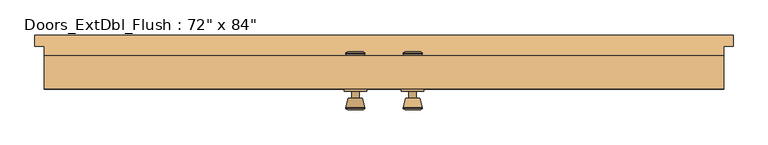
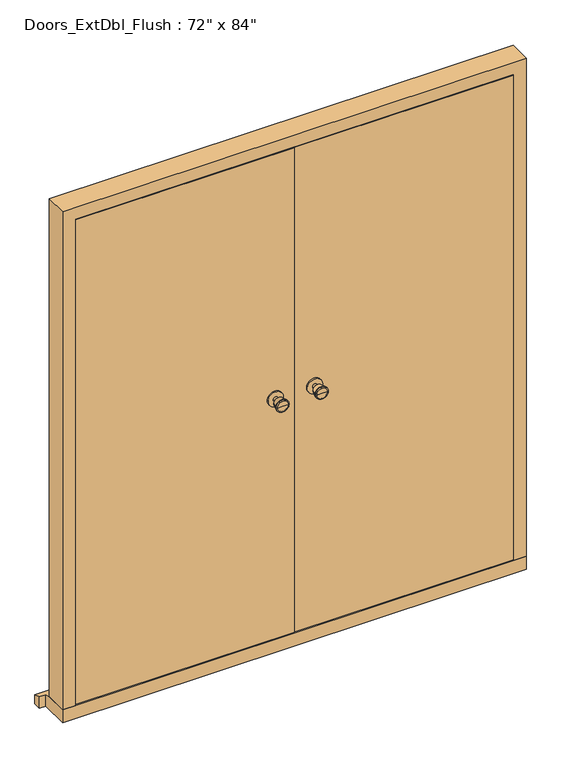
"""IFC4 building model written with IfcOpenShell, lengths in millimetres: door geometry."""

from ifc_helpers import new_model, si_unit, point, frame, frame_2d, origin, place, context, project, spatial, polyline, circle_curve, trimmed, segment, composite_curve, outline, extrude, faceted_brep, source, transform, mapped, element, save
from ifc_brep_helpers import plane_surface, cylinder_surface, revolved_surface, advanced_brep


def door_25965b09(model_context):
    return source(origin(), model_context, "Body", "SolidModel", [
        advanced_brep(
        [(-76.5, 36.5, 1050.0), (-66.5, 36.5, 1050.0), (-86.5, 36.5, 1050.0), (-96.9758676, -12.5, 1050.0), (-56.0241324, -12.5, 1050.0), (-76.5, -12.5, 1050.0), (-101.5, -10.6721319, 1050.0), (-51.5, -10.6721319, 1050.0), (-101.5, -7.2084537, 1050.0), (-51.5, -7.2084537, 1050.0), (-95.136236, 17.5, 1050.0), (-57.863764, 17.5, 1050.0), (-86.5, 17.5, 1050.0), (-66.5, 17.5, 1050.0)],
        [
            (0, 1),
            (1, 2, circle_curve(frame((-76.5, 36.5, 1050.0), z_axis=(0.0, 1.0, 0.0), x_axis=(1.0, 0.0, 0.0)), 10.0)),
            (2, 0),
            (2, 1, circle_curve(frame((-76.5, 36.5, 1050.0), z_axis=(0.0, 1.0, 0.0), x_axis=(1.0, 0.0, 0.0)), 10.0)),
            (3, 4, circle_curve(frame((-76.5, -12.5, 1050.0), z_axis=(0.0, -1.0, 0.0), x_axis=(1.0, 0.0, 0.0)), 20.4758676)),
            (4, 5),
            (5, 3),
            (4, 3, circle_curve(frame((-76.5, -12.5, 1050.0), z_axis=(0.0, -1.0, 0.0), x_axis=(1.0, 0.0, 0.0)), 20.4758676)),
            (6, 7, circle_curve(frame((-76.5, -10.6721319, 1050.0), z_axis=(0.0, -1.0, 0.0), x_axis=(1.0, 0.0, 0.0)), 25.0)),
            (7, 4),
            (3, 6),
            (7, 6, circle_curve(frame((-76.5, -10.6721319, 1050.0), z_axis=(0.0, -1.0, 0.0), x_axis=(1.0, 0.0, 0.0)), 25.0)),
            (8, 9, circle_curve(frame((-76.5, -7.2084537, 1050.0), z_axis=(0.0, -1.0, 0.0), x_axis=(1.0, 0.0, 0.0)), 25.0)),
            (9, 7),
            (6, 8),
            (9, 8, circle_curve(frame((-76.5, -7.2084537, 1050.0), z_axis=(0.0, -1.0, 0.0), x_axis=(1.0, 0.0, 0.0)), 25.0)),
            (10, 11, circle_curve(frame((-76.5, 17.5, 1050.0), z_axis=(0.0, -1.0, 0.0), x_axis=(1.0, 0.0, 0.0)), 18.636236)),
            (11, 9),
            (8, 10),
            (11, 10, circle_curve(frame((-76.5, 17.5, 1050.0), z_axis=(0.0, -1.0, 0.0), x_axis=(1.0, 0.0, 0.0)), 18.636236)),
            (12, 13, circle_curve(frame((-76.5, 17.5, 1050.0), z_axis=(0.0, -1.0, 0.0), x_axis=(1.0, 0.0, 0.0)), 10.0)),
            (13, 11),
            (10, 12),
            (13, 12, circle_curve(frame((-76.5, 17.5, 1050.0), z_axis=(0.0, -1.0, 0.0), x_axis=(1.0, 0.0, 0.0)), 10.0)),
            (1, 13),
            (12, 2),
        ],
        [
            plane_surface(frame((-76.5, 36.5, 1050.0), z_axis=(0.0, 1.0, 0.0), x_axis=(1.0, 0.0, 0.0))),
            plane_surface(frame((-76.5, -12.5, 1050.0), z_axis=(0.0, -1.0, 0.0), x_axis=(1.0, 0.0, 0.0))),
            revolved_surface(polyline([(-56.0241324, -12.5, 1050.0), (-51.5, -10.6721319, 1050.0)]), (-76.5, 36.5, 1050.0), (0.0, 1.0, 0.0)),
            cylinder_surface(frame((-76.5, 36.5, 1050.0), z_axis=(0.0, 1.0, 0.0), x_axis=(1.0, 0.0, 0.0)), 25.0),
            revolved_surface(polyline([(-51.5, -7.2084537, 1050.0), (-57.863764, 17.5, 1050.0)]), (-76.5, 36.5, 1050.0), (0.0, 1.0, 0.0)),
            plane_surface(frame((-76.5, 17.5, 1050.0), z_axis=(0.0, 1.0, 0.0), x_axis=(1.0, 0.0, 0.0))),
            cylinder_surface(frame((-76.5, 36.5, 1050.0), z_axis=(0.0, 1.0, 0.0), x_axis=(1.0, 0.0, 0.0)), 10.0),
        ],
        [
            (0, [[1, 2, 3]]),
            (0, [[-3, 4, -1]]),
            (1, [[5, 6, 7]]),
            (1, [[8, -7, -6]]),
            (2, [[9, 10, -5, 11]]),
            (2, [[12, -11, -8, -10]]),
            (3, [[13, 14, -9, 15]]),
            (3, [[16, -15, -12, -14]]),
            (4, [[17, 18, -13, 19]]),
            (4, [[20, -19, -16, -18]]),
            (5, [[21, 22, -17, 23]]),
            (5, [[24, -23, -20, -22]]),
            (6, [[-2, 25, -21, 26]]),
            (6, [[-4, -26, -24, -25]]),
        ],
    ),
        extrude(outline(composite_curve([segment(trimmed(circle_curve(frame_2d((1050.0, -76.5)), 30.0), [point((1050.0, -46.5))], [point((1050.0, -106.5))], False, "CARTESIAN"), True, "CONTINUOUS"), segment(trimmed(circle_curve(frame_2d((1050.0, -76.5)), 30.0), [point((1050.0, -106.5))], [point((1050.0, -46.5))], False, "CARTESIAN"), True, "CONTINUOUS")], self_intersect=False)), frame((0.0, 36.5, 0.0), z_axis=(0.0, 1.0, 0.0), x_axis=(0.0, 0.0, 1.0)), (0.0, 0.0, 1.0), 6.0),
        advanced_brep(
        [(-76.5, 92.5, 1050.0), (-86.5, 92.5, 1050.0), (-66.5, 92.5, 1050.0), (-96.9758676, 141.5, 1050.0), (-76.5, 141.5, 1050.0), (-56.0241324, 141.5, 1050.0), (-101.5, 139.6721319, 1050.0), (-51.5, 139.6721319, 1050.0), (-101.5, 136.2084537, 1050.0), (-51.5, 136.2084537, 1050.0), (-95.136236, 111.5, 1050.0), (-57.863764, 111.5, 1050.0), (-86.5, 111.5, 1050.0), (-66.5, 111.5, 1050.0)],
        [
            (0, 1),
            (1, 2, circle_curve(frame((-76.5, 92.5, 1050.0), z_axis=(0.0, -1.0, 0.0), x_axis=(1.0, 0.0, 0.0)), 10.0)),
            (2, 0),
            (2, 1, circle_curve(frame((-76.5, 92.5, 1050.0), z_axis=(0.0, -1.0, 0.0), x_axis=(1.0, 0.0, 0.0)), 10.0)),
            (3, 4),
            (4, 5),
            (5, 3, circle_curve(frame((-76.5, 141.5, 1050.0), z_axis=(0.0, 1.0, 0.0), x_axis=(1.0, 0.0, 0.0)), 20.4758676)),
            (3, 5, circle_curve(frame((-76.5, 141.5, 1050.0), z_axis=(0.0, 1.0, 0.0), x_axis=(1.0, 0.0, 0.0)), 20.4758676)),
            (6, 3),
            (5, 7),
            (7, 6, circle_curve(frame((-76.5, 139.6721319, 1050.0), z_axis=(0.0, 1.0, 0.0), x_axis=(1.0, 0.0, 0.0)), 25.0)),
            (6, 7, circle_curve(frame((-76.5, 139.6721319, 1050.0), z_axis=(0.0, 1.0, 0.0), x_axis=(1.0, 0.0, 0.0)), 25.0)),
            (8, 6),
            (7, 9),
            (9, 8, circle_curve(frame((-76.5, 136.2084537, 1050.0), z_axis=(0.0, 1.0, 0.0), x_axis=(1.0, 0.0, 0.0)), 25.0)),
            (8, 9, circle_curve(frame((-76.5, 136.2084537, 1050.0), z_axis=(0.0, 1.0, 0.0), x_axis=(1.0, 0.0, 0.0)), 25.0)),
            (10, 8),
            (9, 11),
            (11, 10, circle_curve(frame((-76.5, 111.5, 1050.0), z_axis=(0.0, 1.0, 0.0), x_axis=(1.0, 0.0, 0.0)), 18.636236)),
            (10, 11, circle_curve(frame((-76.5, 111.5, 1050.0), z_axis=(0.0, 1.0, 0.0), x_axis=(1.0, 0.0, 0.0)), 18.636236)),
            (12, 10),
            (11, 13),
            (13, 12, circle_curve(frame((-76.5, 111.5, 1050.0), z_axis=(0.0, 1.0, 0.0), x_axis=(1.0, 0.0, 0.0)), 10.0)),
            (12, 13, circle_curve(frame((-76.5, 111.5, 1050.0), z_axis=(0.0, 1.0, 0.0), x_axis=(1.0, 0.0, 0.0)), 10.0)),
            (1, 12),
            (13, 2),
        ],
        [
            plane_surface(frame((-76.5, 92.5, 1050.0), z_axis=(0.0, -1.0, 0.0), x_axis=(1.0, 0.0, 0.0))),
            plane_surface(frame((-76.5, 141.5, 1050.0), z_axis=(0.0, 1.0, 0.0), x_axis=(1.0, 0.0, 0.0))),
            revolved_surface(polyline([(-56.0241324, 141.5, 1050.0), (-51.5, 139.6721319, 1050.0)]), (-76.5, 92.5, 1050.0), (0.0, -1.0, 0.0)),
            cylinder_surface(frame((-76.5, 92.5, 1050.0), z_axis=(0.0, -1.0, 0.0), x_axis=(1.0, 0.0, 0.0)), 25.0),
            revolved_surface(polyline([(-51.5, 136.2084537, 1050.0), (-57.863764, 111.5, 1050.0)]), (-76.5, 92.5, 1050.0), (0.0, -1.0, 0.0)),
            plane_surface(frame((-76.5, 111.5, 1050.0), z_axis=(0.0, -1.0, 0.0), x_axis=(1.0, 0.0, 0.0))),
            cylinder_surface(frame((-76.5, 92.5, 1050.0), z_axis=(0.0, -1.0, 0.0), x_axis=(1.0, 0.0, 0.0)), 10.0),
        ],
        [
            (0, [[1, 2, 3]]),
            (0, [[-3, 4, -1]]),
            (1, [[5, 6, 7]]),
            (1, [[-6, -5, 8]]),
            (2, [[9, -7, 10, 11]]),
            (2, [[-10, -8, -9, 12]]),
            (3, [[13, -11, 14, 15]]),
            (3, [[-14, -12, -13, 16]]),
            (4, [[17, -15, 18, 19]]),
            (4, [[-18, -16, -17, 20]]),
            (5, [[21, -19, 22, 23]]),
            (5, [[-22, -20, -21, 24]]),
            (6, [[25, -23, 26, -2]]),
            (6, [[-26, -24, -25, -4]]),
        ],
    ),
        extrude(outline(composite_curve([segment(trimmed(circle_curve(frame_2d((1050.0, -76.5)), 30.0), [point((1050.0, -46.5))], [point((1050.0, -106.5))], False, "CARTESIAN"), True, "CONTINUOUS"), segment(trimmed(circle_curve(frame_2d((1050.0, -76.5)), 30.0), [point((1050.0, -106.5))], [point((1050.0, -46.5))], False, "CARTESIAN"), True, "CONTINUOUS")], self_intersect=False)), frame((0.0, 86.5, 0.0), z_axis=(0.0, 1.0, 0.0), x_axis=(0.0, 0.0, 1.0)), (0.0, 0.0, 1.0), 6.0),
        advanced_brep(
        [(76.5, 36.5, 1050.0), (86.5, 36.5, 1050.0), (66.5, 36.5, 1050.0), (96.9758676, -12.5, 1050.0), (76.5, -12.5, 1050.0), (56.0241324, -12.5, 1050.0), (101.5, -10.6721319, 1050.0), (51.5, -10.6721319, 1050.0), (101.5, -7.2084537, 1050.0), (51.5, -7.2084537, 1050.0), (95.136236, 17.5, 1050.0), (57.863764, 17.5, 1050.0), (86.5, 17.5, 1050.0), (66.5, 17.5, 1050.0)],
        [
            (0, 1),
            (1, 2, circle_curve(frame((76.5, 36.5, 1050.0), z_axis=(0.0, 1.0, 0.0), x_axis=(-1.0, 0.0, 0.0)), 10.0)),
            (2, 0),
            (2, 1, circle_curve(frame((76.5, 36.5, 1050.0), z_axis=(0.0, 1.0, 0.0), x_axis=(-1.0, 0.0, 0.0)), 10.0)),
            (3, 4),
            (4, 5),
            (5, 3, circle_curve(frame((76.5, -12.5, 1050.0), z_axis=(0.0, -1.0, 0.0), x_axis=(-1.0, 0.0, 0.0)), 20.4758676)),
            (3, 5, circle_curve(frame((76.5, -12.5, 1050.0), z_axis=(0.0, -1.0, 0.0), x_axis=(-1.0, 0.0, 0.0)), 20.4758676)),
            (6, 3),
            (5, 7),
            (7, 6, circle_curve(frame((76.5, -10.6721319, 1050.0), z_axis=(0.0, -1.0, 0.0), x_axis=(-1.0, 0.0, 0.0)), 25.0)),
            (6, 7, circle_curve(frame((76.5, -10.6721319, 1050.0), z_axis=(0.0, -1.0, 0.0), x_axis=(-1.0, 0.0, 0.0)), 25.0)),
            (8, 6),
            (7, 9),
            (9, 8, circle_curve(frame((76.5, -7.2084537, 1050.0), z_axis=(0.0, -1.0, 0.0), x_axis=(-1.0, 0.0, 0.0)), 25.0)),
            (8, 9, circle_curve(frame((76.5, -7.2084537, 1050.0), z_axis=(0.0, -1.0, 0.0), x_axis=(-1.0, 0.0, 0.0)), 25.0)),
            (10, 8),
            (9, 11),
            (11, 10, circle_curve(frame((76.5, 17.5, 1050.0), z_axis=(0.0, -1.0, 0.0), x_axis=(-1.0, 0.0, 0.0)), 18.636236)),
            (10, 11, circle_curve(frame((76.5, 17.5, 1050.0), z_axis=(0.0, -1.0, 0.0), x_axis=(-1.0, 0.0, 0.0)), 18.636236)),
            (12, 10),
            (11, 13),
            (13, 12, circle_curve(frame((76.5, 17.5, 1050.0), z_axis=(0.0, -1.0, 0.0), x_axis=(-1.0, 0.0, 0.0)), 10.0)),
            (12, 13, circle_curve(frame((76.5, 17.5, 1050.0), z_axis=(0.0, -1.0, 0.0), x_axis=(-1.0, 0.0, 0.0)), 10.0)),
            (1, 12),
            (13, 2),
        ],
        [
            plane_surface(frame((76.5, 36.5, 1050.0), z_axis=(0.0, 1.0, 0.0), x_axis=(-1.0, 0.0, 0.0))),
            plane_surface(frame((76.5, -12.5, 1050.0), z_axis=(0.0, -1.0, 0.0), x_axis=(-1.0, 0.0, 0.0))),
            revolved_surface(polyline([(56.0241324, -12.5, 1050.0), (51.5, -10.6721319, 1050.0)]), (76.5, 36.5, 1050.0), (0.0, 1.0, 0.0)),
            cylinder_surface(frame((76.5, 36.5, 1050.0), z_axis=(0.0, 1.0, 0.0), x_axis=(-1.0, 0.0, 0.0)), 25.0),
            revolved_surface(polyline([(51.5, -7.2084537, 1050.0), (57.863764, 17.5, 1050.0)]), (76.5, 36.5, 1050.0), (0.0, 1.0, 0.0)),
            plane_surface(frame((76.5, 17.5, 1050.0), z_axis=(0.0, 1.0, 0.0), x_axis=(-1.0, 0.0, 0.0))),
            cylinder_surface(frame((76.5, 36.5, 1050.0), z_axis=(0.0, 1.0, 0.0), x_axis=(-1.0, 0.0, 0.0)), 10.0),
        ],
        [
            (0, [[1, 2, 3]]),
            (0, [[-3, 4, -1]]),
            (1, [[5, 6, 7]]),
            (1, [[-6, -5, 8]]),
            (2, [[9, -7, 10, 11]]),
            (2, [[-10, -8, -9, 12]]),
            (3, [[13, -11, 14, 15]]),
            (3, [[-14, -12, -13, 16]]),
            (4, [[17, -15, 18, 19]]),
            (4, [[-18, -16, -17, 20]]),
            (5, [[21, -19, 22, 23]]),
            (5, [[-22, -20, -21, 24]]),
            (6, [[25, -23, 26, -2]]),
            (6, [[-26, -24, -25, -4]]),
        ],
    ),
        extrude(outline(composite_curve([segment(trimmed(circle_curve(frame_2d((1050.0, 76.5)), 30.0), [point((1050.0, 46.5))], [point((1050.0, 106.5))], False, "CARTESIAN"), True, "CONTINUOUS"), segment(trimmed(circle_curve(frame_2d((1050.0, 76.5)), 30.0), [point((1050.0, 106.5))], [point((1050.0, 46.5))], False, "CARTESIAN"), True, "CONTINUOUS")], self_intersect=False)), frame((0.0, 36.5, 0.0), z_axis=(0.0, 1.0, 0.0), x_axis=(0.0, 0.0, 1.0)), (0.0, 0.0, 1.0), 6.0),
        advanced_brep(
        [(76.5, 92.5, 1050.0), (66.5, 92.5, 1050.0), (86.5, 92.5, 1050.0), (96.9758676, 141.5, 1050.0), (56.0241324, 141.5, 1050.0), (76.5, 141.5, 1050.0), (101.5, 139.6721319, 1050.0), (51.5, 139.6721319, 1050.0), (101.5, 136.2084537, 1050.0), (51.5, 136.2084537, 1050.0), (95.136236, 111.5, 1050.0), (57.863764, 111.5, 1050.0), (86.5, 111.5, 1050.0), (66.5, 111.5, 1050.0)],
        [
            (0, 1),
            (1, 2, circle_curve(frame((76.5, 92.5, 1050.0), z_axis=(0.0, -1.0, 0.0), x_axis=(-1.0, 0.0, 0.0)), 10.0)),
            (2, 0),
            (2, 1, circle_curve(frame((76.5, 92.5, 1050.0), z_axis=(0.0, -1.0, 0.0), x_axis=(-1.0, 0.0, 0.0)), 10.0)),
            (3, 4, circle_curve(frame((76.5, 141.5, 1050.0), z_axis=(0.0, 1.0, 0.0), x_axis=(-1.0, 0.0, 0.0)), 20.4758676)),
            (4, 5),
            (5, 3),
            (4, 3, circle_curve(frame((76.5, 141.5, 1050.0), z_axis=(0.0, 1.0, 0.0), x_axis=(-1.0, 0.0, 0.0)), 20.4758676)),
            (6, 7, circle_curve(frame((76.5, 139.6721319, 1050.0), z_axis=(0.0, 1.0, 0.0), x_axis=(-1.0, 0.0, 0.0)), 25.0)),
            (7, 4),
            (3, 6),
            (7, 6, circle_curve(frame((76.5, 139.6721319, 1050.0), z_axis=(0.0, 1.0, 0.0), x_axis=(-1.0, 0.0, 0.0)), 25.0)),
            (8, 9, circle_curve(frame((76.5, 136.2084537, 1050.0), z_axis=(0.0, 1.0, 0.0), x_axis=(-1.0, 0.0, 0.0)), 25.0)),
            (9, 7),
            (6, 8),
            (9, 8, circle_curve(frame((76.5, 136.2084537, 1050.0), z_axis=(0.0, 1.0, 0.0), x_axis=(-1.0, 0.0, 0.0)), 25.0)),
            (10, 11, circle_curve(frame((76.5, 111.5, 1050.0), z_axis=(0.0, 1.0, 0.0), x_axis=(-1.0, 0.0, 0.0)), 18.636236)),
            (11, 9),
            (8, 10),
            (11, 10, circle_curve(frame((76.5, 111.5, 1050.0), z_axis=(0.0, 1.0, 0.0), x_axis=(-1.0, 0.0, 0.0)), 18.636236)),
            (12, 13, circle_curve(frame((76.5, 111.5, 1050.0), z_axis=(0.0, 1.0, 0.0), x_axis=(-1.0, 0.0, 0.0)), 10.0)),
            (13, 11),
            (10, 12),
            (13, 12, circle_curve(frame((76.5, 111.5, 1050.0), z_axis=(0.0, 1.0, 0.0), x_axis=(-1.0, 0.0, 0.0)), 10.0)),
            (1, 13),
            (12, 2),
        ],
        [
            plane_surface(frame((76.5, 92.5, 1050.0), z_axis=(0.0, -1.0, 0.0), x_axis=(-1.0, 0.0, 0.0))),
            plane_surface(frame((76.5, 141.5, 1050.0), z_axis=(0.0, 1.0, 0.0), x_axis=(-1.0, 0.0, 0.0))),
            revolved_surface(polyline([(56.0241324, 141.5, 1050.0), (51.5, 139.6721319, 1050.0)]), (76.5, 92.5, 1050.0), (0.0, -1.0, 0.0)),
            cylinder_surface(frame((76.5, 92.5, 1050.0), z_axis=(0.0, -1.0, 0.0), x_axis=(-1.0, 0.0, 0.0)), 25.0),
            revolved_surface(polyline([(51.5, 136.2084537, 1050.0), (57.863764, 111.5, 1050.0)]), (76.5, 92.5, 1050.0), (0.0, -1.0, 0.0)),
            plane_surface(frame((76.5, 111.5, 1050.0), z_axis=(0.0, -1.0, 0.0), x_axis=(-1.0, 0.0, 0.0))),
            cylinder_surface(frame((76.5, 92.5, 1050.0), z_axis=(0.0, -1.0, 0.0), x_axis=(-1.0, 0.0, 0.0)), 10.0),
        ],
        [
            (0, [[1, 2, 3]]),
            (0, [[-3, 4, -1]]),
            (1, [[5, 6, 7]]),
            (1, [[8, -7, -6]]),
            (2, [[9, 10, -5, 11]]),
            (2, [[12, -11, -8, -10]]),
            (3, [[13, 14, -9, 15]]),
            (3, [[16, -15, -12, -14]]),
            (4, [[17, 18, -13, 19]]),
            (4, [[20, -19, -16, -18]]),
            (5, [[21, 22, -17, 23]]),
            (5, [[24, -23, -20, -22]]),
            (6, [[-2, 25, -21, 26]]),
            (6, [[-4, -26, -24, -25]]),
        ],
    ),
        extrude(outline(composite_curve([segment(trimmed(circle_curve(frame_2d((1050.0, 76.5)), 30.0), [point((1050.0, 46.5))], [point((1050.0, 106.5))], False, "CARTESIAN"), True, "CONTINUOUS"), segment(trimmed(circle_curve(frame_2d((1050.0, 76.5)), 30.0), [point((1050.0, 106.5))], [point((1050.0, 46.5))], False, "CARTESIAN"), True, "CONTINUOUS")], self_intersect=False)), frame((0.0, 86.5, 0.0), z_axis=(0.0, 1.0, 0.0), x_axis=(0.0, 0.0, 1.0)), (0.0, 0.0, 1.0), 6.0),
        faceted_brep([(834.5, 131.5, 54.5), (905.0, 131.5, 54.5), (905.0, 42.5, 54.5), (856.5, 42.5, 54.5), (856.5, 89.5, 54.5), (834.5, 89.5, 54.5), (834.5, 131.5, 2039.5), (-834.5, 131.5, 2039.5), (-834.5, 131.5, 54.5), (-905.0, 131.5, 54.5), (-905.0, 131.5, 2110.0), (905.0, 131.5, 2110.0), (905.0, 42.5, 2110.0), (-905.0, 42.5, 2110.0), (-905.0, 42.5, 54.5), (-856.5, 42.5, 54.5), (-856.5, 42.5, 2061.5), (856.5, 42.5, 2061.5), (856.5, 89.5, 2061.5), (-856.5, 89.5, 2061.5), (-856.5, 89.5, 54.5), (-834.5, 89.5, 54.5), (-834.5, 89.5, 2039.5), (834.5, 89.5, 2039.5)], [[[0, 1, 2, 3, 4, 5]], [[1, 0, 6, 7, 8, 9, 10, 11]], [[2, 1, 11, 12]], [[3, 2, 12, 13, 14, 15, 16, 17]], [[4, 3, 17, 18]], [[5, 4, 18, 19, 20, 21, 22, 23]], [[0, 5, 23, 6]], [[12, 11, 10, 13]], [[18, 17, 16, 19]], [[6, 23, 22, 7]], [[8, 21, 20, 15, 14, 9]], [[13, 10, 9, 14]], [[19, 16, 15, 20]], [[7, 22, 21, 8]]]),
        faceted_brep([(930.0, 186.5, 0.0), (930.0, 186.5, 38.5947221), (930.0, 156.5, 47.2703282), (930.0, 156.5, 0.0), (-930.0, 186.5, 38.5947221), (-930.0, 186.5, 0.0), (-930.0, 156.5, 0.0), (-930.0, 156.5, 47.2703282), (905.0, 156.5, 0.0), (905.0, 42.5, 0.0), (-905.0, 42.5, 0.0), (-905.0, 156.5, 0.0), (-905.0, 156.5, 47.2703282), (-905.0, 131.5, 54.5), (905.0, 131.5, 54.5), (905.0, 156.5, 47.2703282), (-905.0, 42.5, 54.5), (905.0, 42.5, 54.5)], [[[0, 1, 2, 3]], [[4, 5, 6, 7]], [[5, 0, 3, 8, 9, 10, 11, 6]], [[1, 0, 5, 4]], [[1, 4, 7, 12, 13, 14, 15, 2]], [[13, 16, 17, 14]], [[16, 10, 9, 17]], [[12, 11, 10, 16, 13]], [[11, 12, 7, 6]], [[8, 15, 14, 17, 9]], [[15, 8, 3, 2]]]),
        extrude(outline(polyline([(853.5, 42.5), (1.5, 42.5), (1.5, 86.5), (853.5, 86.5), (853.5, 42.5)])), frame((0.0, 0.0, 58.5), z_axis=(0.0, 0.0, 1.0), x_axis=(1.0, 0.0, 0.0)), (0.0, 0.0, 1.0), 2000.0),
        extrude(outline(polyline([(-1.5, 42.5), (-853.5, 42.5), (-853.5, 86.5), (-1.5, 86.5), (-1.5, 42.5)])), frame((0.0, 0.0, 58.5), z_axis=(0.0, 0.0, 1.0), x_axis=(1.0, 0.0, 0.0)), (0.0, 0.0, 1.0), 2000.0),
    ])


if __name__ == "__main__":
    model = new_model("IFC4")
    model_context = context("Model", 3, world=origin())
    ifc_project = project(units=[si_unit("LENGTHUNIT", "METRE", prefix="MILLI")], contexts=[model_context])
    site = spatial("IfcSite", under=ifc_project)
    building = spatial("IfcBuilding", under=site)
    placement = place(None, origin())
    door_shape = door_25965b09(model_context)
    element("IfcDoor", 1, ObjectType="Doors_ExtDbl_Flush : 72\" x 84\"", at=placement, inside=building, context=model_context, shape_type="MappedRepresentation", body=[
        mapped(door_shape, transform((0.0, 0.0, 0.0), x_axis=(1.0, 0.0, 0.0), y_axis=(0.0, 1.0, 0.0), z_axis=(0.0, 0.0, 1.0))),
    ])
    save(model, "model.ifc")
